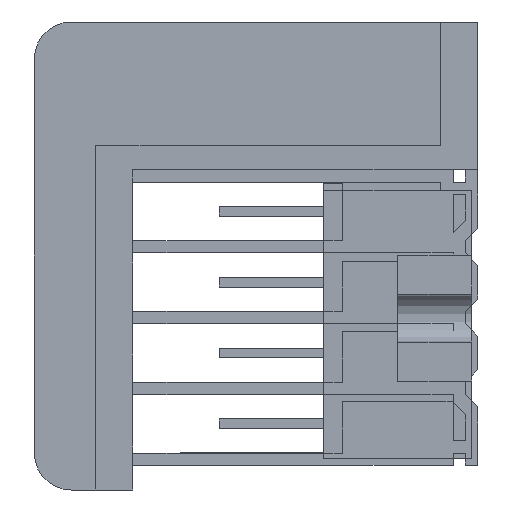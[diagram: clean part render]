
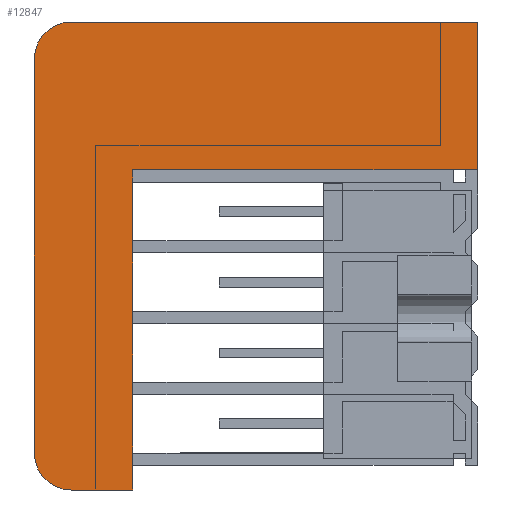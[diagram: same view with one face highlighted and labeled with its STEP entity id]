
A CAD part, front view. The second image highlights one B-rep face of the part: STEP entity #12847.
In plain terms, the highlighted planar face has unit normal (0, -1, 0).
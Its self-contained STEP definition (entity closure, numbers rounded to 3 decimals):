
#162=DIRECTION('',(1.,0.,0.));
#163=VECTOR('',#162,1.);
#164=CARTESIAN_POINT('',(26.,426.75,24.));
#165=LINE('',#164,#163);
#166=DIRECTION('',(0.,0.,-1.));
#167=VECTOR('',#166,4.75);
#168=CARTESIAN_POINT('',(0.,426.75,23.));
#169=LINE('',#168,#167);
#170=DIRECTION('',(0.,0.,-1.));
#171=VECTOR('',#170,4.75);
#172=CARTESIAN_POINT('',(0.,426.75,17.25));
#173=LINE('',#172,#171);
#174=DIRECTION('',(0.,0.,-1.));
#175=VECTOR('',#174,4.75);
#176=CARTESIAN_POINT('',(0.,426.75,11.5));
#177=LINE('',#176,#175);
#178=DIRECTION('',(0.,0.,-1.));
#179=VECTOR('',#178,4.75);
#180=CARTESIAN_POINT('',(0.,426.75,5.75));
#181=LINE('',#180,#179);
#182=DIRECTION('',(0.,0.,-1.));
#183=VECTOR('',#182,2.);
#184=CARTESIAN_POINT('',(0.,426.75,0.));
#185=LINE('',#184,#183);
#186=DIRECTION('',(-1.,0.,0.));
#187=VECTOR('',#186,5.);
#188=CARTESIAN_POINT('',(0.,426.75,-2.));
#189=LINE('',#188,#187);
#190=CARTESIAN_POINT('',(-5.,426.75,1.));
#191=DIRECTION('',(0.,1.,0.));
#192=DIRECTION('',(0.,0.,-1.));
#193=AXIS2_PLACEMENT_3D('',#190,#191,#192);
#195=DIRECTION('',(0.,0.,1.));
#196=VECTOR('',#195,32.);
#197=CARTESIAN_POINT('',(-8.,426.75,1.));
#198=LINE('',#197,#196);
#199=CARTESIAN_POINT('',(-5.,426.75,33.));
#200=DIRECTION('',(0.,1.,0.));
#201=DIRECTION('',(-1.,0.,0.));
#202=AXIS2_PLACEMENT_3D('',#199,#200,#201);
#204=DIRECTION('',(1.,0.,0.));
#205=VECTOR('',#204,33.);
#206=CARTESIAN_POINT('',(-5.,426.75,36.));
#207=LINE('',#206,#205);
#208=DIRECTION('',(0.,0.,-1.));
#209=VECTOR('',#208,12.);
#210=CARTESIAN_POINT('',(28.,426.75,36.));
#211=LINE('',#210,#209);
#212=DIRECTION('',(0.,0.,-1.));
#213=VECTOR('',#212,1.);
#214=CARTESIAN_POINT('',(0.,426.75,24.));
#215=LINE('',#214,#213);
#220=DIRECTION('',(-1.,0.,0.));
#221=VECTOR('',#220,26.);
#222=CARTESIAN_POINT('',(26.,426.75,24.));
#223=LINE('',#222,#221);
#1041=DIRECTION('',(0.,0.,-1.));
#1042=VECTOR('',#1041,1.);
#1043=CARTESIAN_POINT('',(0.,426.75,18.25));
#1044=LINE('',#1043,#1042);
#9225=DIRECTION('',(0.,0.,-1.));
#9226=VECTOR('',#9225,1.);
#9227=CARTESIAN_POINT('',(0.,426.75,6.75));
#9228=LINE('',#9227,#9226);
#9249=DIRECTION('',(0.,0.,-1.));
#9250=VECTOR('',#9249,1.);
#9251=CARTESIAN_POINT('',(0.,426.75,12.5));
#9252=LINE('',#9251,#9250);
#9269=DIRECTION('',(0.,0.,-1.));
#9270=VECTOR('',#9269,1.);
#9271=CARTESIAN_POINT('',(0.,426.75,1.));
#9272=LINE('',#9271,#9270);
#9443=DIRECTION('',(-1.,0.,0.));
#9444=VECTOR('',#9443,1.);
#9445=CARTESIAN_POINT('',(28.,426.75,24.));
#9446=LINE('',#9445,#9444);
#12336=CARTESIAN_POINT('',(-5.,426.75,-2.));
#12338=VERTEX_POINT('',#12336);
#12340=CARTESIAN_POINT('',(0.,426.75,-2.));
#12341=VERTEX_POINT('',#12340);
#12348=CARTESIAN_POINT('',(-8.,426.75,1.));
#12349=VERTEX_POINT('',#12348);
#12364=CARTESIAN_POINT('',(-8.,426.75,33.));
#12365=VERTEX_POINT('',#12364);
#12370=CARTESIAN_POINT('',(-5.,426.75,36.));
#12371=VERTEX_POINT('',#12370);
#12376=CARTESIAN_POINT('',(28.,426.75,36.));
#12377=VERTEX_POINT('',#12376);
#12392=CARTESIAN_POINT('',(0.,426.75,24.));
#12393=CARTESIAN_POINT('',(0.,426.75,23.));
#12394=VERTEX_POINT('',#12392);
#12395=VERTEX_POINT('',#12393);
#12396=CARTESIAN_POINT('',(0.,426.75,1.));
#12398=VERTEX_POINT('',#12396);
#12402=CARTESIAN_POINT('',(0.,426.75,0.));
#12403=VERTEX_POINT('',#12402);
#12408=CARTESIAN_POINT('',(28.,426.75,24.));
#12409=CARTESIAN_POINT('',(27.,426.75,24.));
#12410=VERTEX_POINT('',#12408);
#12411=VERTEX_POINT('',#12409);
#12412=CARTESIAN_POINT('',(26.,426.75,24.));
#12414=VERTEX_POINT('',#12412);
#12416=CARTESIAN_POINT('',(0.,426.75,18.25));
#12418=VERTEX_POINT('',#12416);
#12422=CARTESIAN_POINT('',(0.,426.75,17.25));
#12423=VERTEX_POINT('',#12422);
#12424=CARTESIAN_POINT('',(0.,426.75,12.5));
#12426=VERTEX_POINT('',#12424);
#12430=CARTESIAN_POINT('',(0.,426.75,11.5));
#12431=VERTEX_POINT('',#12430);
#12432=CARTESIAN_POINT('',(0.,426.75,6.75));
#12434=VERTEX_POINT('',#12432);
#12438=CARTESIAN_POINT('',(0.,426.75,5.75));
#12439=VERTEX_POINT('',#12438);
#12803=CARTESIAN_POINT('',(-8.,426.75,36.));
#12804=DIRECTION('',(0.,-1.,0.));
#12805=DIRECTION('',(0.,0.,-1.));
#12806=AXIS2_PLACEMENT_3D('',#12803,#12804,#12805);
#12807=PLANE('',#12806);
#12809=ORIENTED_EDGE('',*,*,#12808,.T.);
#12811=ORIENTED_EDGE('',*,*,#12810,.T.);
#12813=ORIENTED_EDGE('',*,*,#12812,.T.);
#12815=ORIENTED_EDGE('',*,*,#12814,.T.);
#12817=ORIENTED_EDGE('',*,*,#12816,.T.);
#12819=ORIENTED_EDGE('',*,*,#12818,.T.);
#12821=ORIENTED_EDGE('',*,*,#12820,.T.);
#12823=ORIENTED_EDGE('',*,*,#12822,.T.);
#12825=ORIENTED_EDGE('',*,*,#12824,.T.);
#12827=ORIENTED_EDGE('',*,*,#12826,.T.);
#12829=ORIENTED_EDGE('',*,*,#12828,.T.);
#12831=ORIENTED_EDGE('',*,*,#12830,.T.);
#12833=ORIENTED_EDGE('',*,*,#12832,.T.);
#12835=ORIENTED_EDGE('',*,*,#12834,.T.);
#12837=ORIENTED_EDGE('',*,*,#12836,.T.);
#12839=ORIENTED_EDGE('',*,*,#12838,.T.);
#12841=ORIENTED_EDGE('',*,*,#12840,.T.);
#12842=ORIENTED_EDGE('',*,*,#12798,.F.);
#12844=ORIENTED_EDGE('',*,*,#12843,.T.);
#12845=EDGE_LOOP('',(#12809,#12811,#12813,#12815,#12817,#12819,#12821,#12823,
#12825,#12827,#12829,#12831,#12833,#12835,#12837,#12839,#12841,#12842,#12844));
#12846=FACE_OUTER_BOUND('',#12845,.F.);
#194=CIRCLE('',#193,3.);
#203=CIRCLE('',#202,3.);
#12798=EDGE_CURVE('',#12414,#12411,#165,.T.);
#12808=EDGE_CURVE('',#12394,#12395,#215,.T.);
#12810=EDGE_CURVE('',#12395,#12418,#169,.T.);
#12812=EDGE_CURVE('',#12418,#12423,#1044,.T.);
#12814=EDGE_CURVE('',#12423,#12426,#173,.T.);
#12816=EDGE_CURVE('',#12426,#12431,#9252,.T.);
#12818=EDGE_CURVE('',#12431,#12434,#177,.T.);
#12820=EDGE_CURVE('',#12434,#12439,#9228,.T.);
#12822=EDGE_CURVE('',#12439,#12398,#181,.T.);
#12824=EDGE_CURVE('',#12398,#12403,#9272,.T.);
#12826=EDGE_CURVE('',#12403,#12341,#185,.T.);
#12828=EDGE_CURVE('',#12341,#12338,#189,.T.);
#12830=EDGE_CURVE('',#12338,#12349,#194,.T.);
#12832=EDGE_CURVE('',#12349,#12365,#198,.T.);
#12834=EDGE_CURVE('',#12365,#12371,#203,.T.);
#12836=EDGE_CURVE('',#12371,#12377,#207,.T.);
#12838=EDGE_CURVE('',#12377,#12410,#211,.T.);
#12840=EDGE_CURVE('',#12410,#12411,#9446,.T.);
#12843=EDGE_CURVE('',#12414,#12394,#223,.T.);
#12847=ADVANCED_FACE('',(#12846),#12807,.T.);
